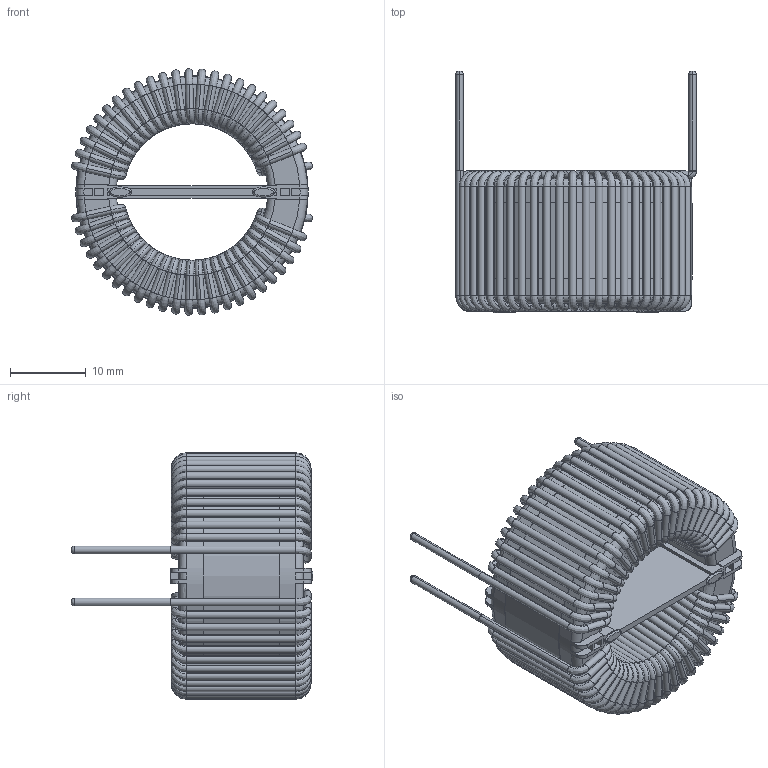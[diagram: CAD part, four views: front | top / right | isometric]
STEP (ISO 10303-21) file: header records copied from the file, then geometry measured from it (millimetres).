
FILE_DESCRIPTION (( 'STEP AP203' ), '1' );
FILE_NAME ('HN-H-353U-7A.STEP', '2020-07-09T10:26:37', ( 'Windows User' ), ( '' ), 'SwSTEP 2.0', 'SolidWorks 2015', '' );
FILE_SCHEMA (( 'CONFIG_CONTROL_DESIGN' ));
Length unit declared in the file: inch
Products named in the file (4): HN-H-353U-7A - FRAME; HN-H-353U-7A - CORE; HN-H-353U-7A - COIL; HN-H-353U-7A
Assembly tree (3 placements, depth 2):
  HN-H-353U-7A
    HN-H-353U-7A - CORE
    HN-H-353U-7A - COIL
    HN-H-353U-7A - FRAME
Bounding box: 31.72 x 31.83 x 32.47 mm (x, y, z)
Volume: 9024 mm3; surface area: 13504 mm2
Topology: 13 solids, 13 shells, 1097 faces, 2995 edges, 1926 vertices
Faces by surface type: cylinder 499, bspline 238, torus 224, plane 136
Entity records: 52027 total; most frequent: CARTESIAN_POINT 24344, ORIENTED_EDGE 5990, DIRECTION 5881, EDGE_CURVE 2995, AXIS2_PLACEMENT_3D 2527, VERTEX_POINT 1926, CIRCLE 1662, EDGE_LOOP 1103
